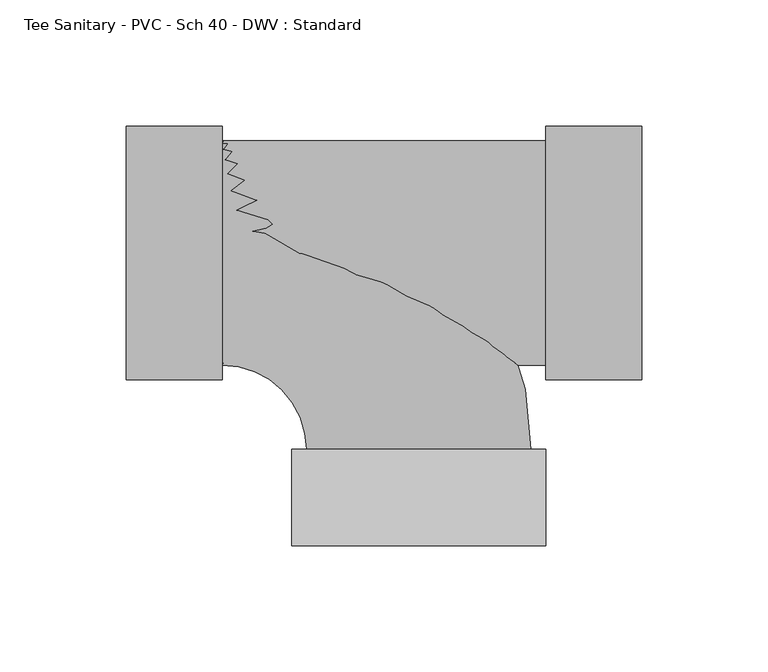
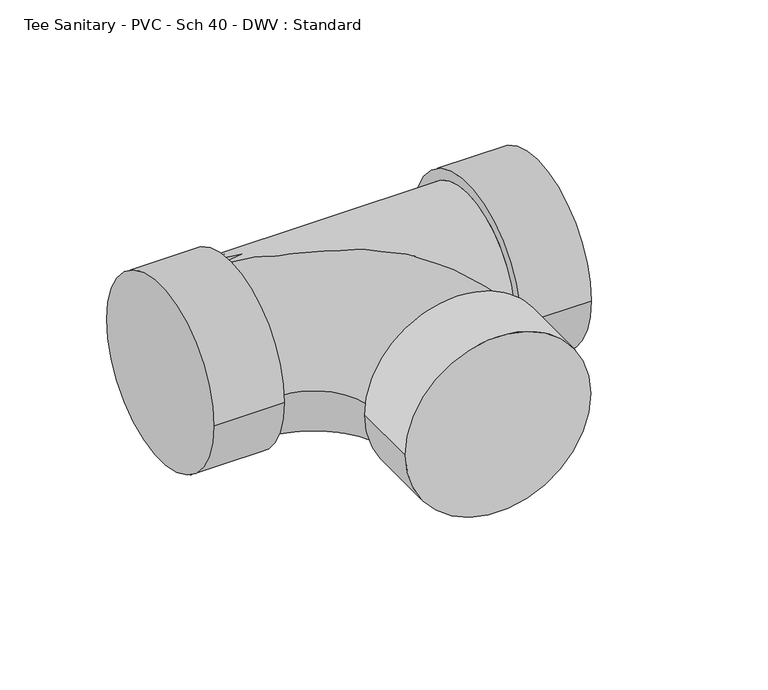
"""IFC4 building model written with IfcOpenShell, lengths in millimetres: pipe fitting geometry, Tee Sanitary - PVC - Sch 40 - DWV : Standard."""

import ifcopenshell
import ifcopenshell.guid

model = None  # the IFC model being written
_history = None  # IfcOwnerHistory: only IFC2X3 demands one
_inside = {}  # id of a spatial element -> (the spatial element, [elements in it])
_under = {}  # id of a project, library or spatial element -> (it, [spatial elements below it])
_declared = {}  # id of a project -> (the project, [libraries it declares])
_typed = {}  # id of a type object -> (the type object, [elements of that type])
_made_of = {}  # id of a material, layer set ... -> (it, [elements and type objects made of it])


def new_model(schema):
    """Start an empty IFC model of exactly this schema.

    Asked for "IFC4X3", IfcOpenShell would pick the latest addendum, in which some entities
    have other attributes; the version numbers below select the first issue.
    IFC2X3 requires an IfcOwnerHistory on every rooted entity: one is made here for all.
    """
    global model, _history
    if schema == "IFC4X3":
        model = ifcopenshell.file(schema_version=(4, 3, 0, 0))
    else:
        model = ifcopenshell.file(schema=schema)
    _inside.clear()
    _under.clear()
    _declared.clear()
    _typed.clear()
    _made_of.clear()
    _history = None
    if model.schema == "IFC2X3":
        org = make("IfcOrganization", Name="unknown")
        user = make(
            "IfcPersonAndOrganization",
            ThePerson=make("IfcPerson", FamilyName="unknown"),
            TheOrganization=org,
        )
        app = make(
            "IfcApplication",
            ApplicationDeveloper=org,
            Version="unknown",
            ApplicationFullName="unknown",
            ApplicationIdentifier="unknown",
        )
        _history = make(
            "IfcOwnerHistory",
            OwningUser=user,
            OwningApplication=app,
            ChangeAction="ADDED",
            CreationDate=0,
        )
    return model


def make(cls, **values):
    """One entity of the class cls with the attributes given. An attribute that is None is left unset."""
    return model.create_entity(
        cls, **{name: value for name, value in values.items() if value is not None}
    )


def rooted(cls, **values):
    """An entity with a GlobalId (a new one), such as an element, a storey or a relation."""
    return make(cls, GlobalId=ifcopenshell.guid.new(), OwnerHistory=_history, **values)


def si_unit(unit_type, name, prefix=None):
    """IfcSIUnit, for example si_unit("LENGTHUNIT", "METRE", prefix="MILLI")."""
    return make("IfcSIUnit", UnitType=unit_type, Prefix=prefix, Name=name)


def assignment(units):
    """IfcUnitAssignment: the units of a project."""
    return None if units is None else make("IfcUnitAssignment", Units=units)


def point(xyz):
    """IfcCartesianPoint."""
    return None if xyz is None else make("IfcCartesianPoint", Coordinates=xyz)


def direction(xyz):
    """IfcDirection."""
    return None if xyz is None else make("IfcDirection", DirectionRatios=xyz)


def frame(location, z_axis=None, x_axis=None):
    """IfcAxis2Placement3D, a coordinate frame: its origin and axes. An axis left out is left unset."""
    return make(
        "IfcAxis2Placement3D",
        Location=point(location),
        Axis=direction(z_axis),
        RefDirection=direction(x_axis),
    )


def origin():
    """The frame at (0, 0, 0) with its axes left unset."""
    return frame((0.0, 0.0, 0.0))


def place(relative_to, where):
    """IfcLocalPlacement: puts the frame where relative to a parent placement (None: the world)."""
    return make(
        "IfcLocalPlacement", PlacementRelTo=relative_to, RelativePlacement=where
    )


def context(
    kind, dimensions, precision=None, world=None, true_north=None, identifier=None
):
    """IfcGeometricRepresentationContext, for example the 3D "Model" context."""
    return make(
        "IfcGeometricRepresentationContext",
        ContextIdentifier=identifier,
        ContextType=kind,
        CoordinateSpaceDimension=dimensions,
        Precision=precision,
        WorldCoordinateSystem=world,
        TrueNorth=true_north,
    )


def project(units=None, contexts=None):
    """IfcProject with its units and contexts."""
    return rooted(
        "IfcProject",
        Name="project",
        RepresentationContexts=contexts,
        UnitsInContext=assignment(units),
    )


def spatial(cls, under=None, at=None, **own):
    """A site, building, storey or space (cls), placed at a placement, below another one or the project."""
    s = rooted(cls, ObjectPlacement=at, **own)
    if under is not None:
        _under.setdefault(under.id(), (under, []))[1].append(s)
    return s


def circle_curve(where, radius):
    """IfcCircle in the frame where."""
    return make("IfcCircle", Position=where, Radius=radius)


def ellipse_curve(where, semi_axis1, semi_axis2):
    """IfcEllipse in the frame where."""
    return make(
        "IfcEllipse", Position=where, SemiAxis1=semi_axis1, SemiAxis2=semi_axis2
    )


def trimmed(basis, trim1, trim2, sense, master):
    """IfcTrimmedCurve: the piece of a basis curve between two trims."""
    return make(
        "IfcTrimmedCurve",
        BasisCurve=basis,
        Trim1=trim1,
        Trim2=trim2,
        SenseAgreement=sense,
        MasterRepresentation=master,
    )


def shape(context_of_items, identifier, shape_type, items):
    """IfcShapeRepresentation: the items that make up one representation, for example the "Body"."""
    return make(
        "IfcShapeRepresentation",
        ContextOfItems=context_of_items,
        RepresentationIdentifier=identifier,
        RepresentationType=shape_type,
        Items=items,
    )


def source(mapping_origin, context_of_items, identifier, shape_type, items):
    """IfcRepresentationMap: a shape defined once, which mapped items show again and again."""
    return make(
        "IfcRepresentationMap",
        MappingOrigin=mapping_origin,
        MappedRepresentation=shape(context_of_items, identifier, shape_type, items),
    )


def transform(
    local_origin,
    x_axis=None,
    y_axis=None,
    z_axis=None,
    scale=None,
    scale2=None,
    scale3=None,
    uniform=True,
):
    """IfcCartesianTransformationOperator3D, or its non-uniform kind. x_axis, y_axis, z_axis: its Axis1, 2, 3."""
    if uniform:
        return make(
            "IfcCartesianTransformationOperator3D",
            Axis1=direction(x_axis),
            Axis2=direction(y_axis),
            LocalOrigin=point(local_origin),
            Scale=scale,
            Axis3=direction(z_axis),
        )
    return make(
        "IfcCartesianTransformationOperator3DnonUniform",
        Axis1=direction(x_axis),
        Axis2=direction(y_axis),
        LocalOrigin=point(local_origin),
        Scale=scale,
        Axis3=direction(z_axis),
        Scale2=scale2,
        Scale3=scale3,
    )


def mapped(mapping_source, mapping_target):
    """IfcMappedItem: shows the shape of a source again, moved by a transform."""
    return make(
        "IfcMappedItem", MappingSource=mapping_source, MappingTarget=mapping_target
    )


def made_of(thing, what):
    """Note that an element or type object is made of a material, layer set ...; save() writes the relation."""
    if what is not None:
        _made_of.setdefault(what.id(), (what, []))[1].append(thing)
    return thing


def element(
    cls,
    number,
    at=None,
    inside=None,
    cuts=None,
    type_object=None,
    material=None,
    context=None,
    identifier="Body",
    shape_type=None,
    held_by="IfcProductDefinitionShape",
    body=None,
    shapes=None,
    **own,
):
    """One element of the class cls, such as IfcWall. Its Tag is "e" and its number.

    at: its placement. inside: the storey or other place that contains it. cuts: it is an
    opening in that element (IfcRelVoidsElement). A single representation is given by context,
    identifier, shape_type and body (its items); several are given by shapes. held_by: the class
    of the entity that holds the representations. save() writes the other relations.
    """
    e = rooted(cls, Tag="e%d" % number, ObjectPlacement=at, **own)
    if body is not None:
        shapes = [shape(context, identifier, shape_type, body)]
    if shapes is not None:
        e.Representation = make(held_by, Representations=shapes)
    if inside is not None:
        _inside.setdefault(inside.id(), (inside, []))[1].append(e)
    if cuts is not None:
        rooted(
            "IfcRelVoidsElement", RelatingBuildingElement=cuts, RelatedOpeningElement=e
        )
    if type_object is not None:
        _typed.setdefault(type_object.id(), (type_object, []))[1].append(e)
    return made_of(e, material)


def aggregate(whole, parts):
    """IfcRelAggregates: a whole, such as a stair, and the parts it consists of."""
    return rooted("IfcRelAggregates", RelatingObject=whole, RelatedObjects=parts)


def save(model, path):
    """Write the relations noted so far, then the file.

    IfcRelAggregates (storeys below a building ...), IfcRelContainedInSpatialStructure (elements
    in a storey), IfcRelDefinesByType, IfcRelAssociatesMaterial and IfcRelDeclares: one each for
    every whole, place, type object, material and project.
    """
    for whole, parts in _under.values():
        aggregate(whole, parts)
    for where, things in _inside.values():
        rooted(
            "IfcRelContainedInSpatialStructure",
            RelatedElements=things,
            RelatingStructure=where,
        )
    for kind, things in _typed.values():
        rooted("IfcRelDefinesByType", RelatedObjects=things, RelatingType=kind)
    for what, things in _made_of.values():
        rooted("IfcRelAssociatesMaterial", RelatedObjects=things, RelatingMaterial=what)
    for by, libraries in _declared.values():
        rooted("IfcRelDeclares", RelatingContext=by, RelatedDefinitions=libraries)
    model.write(path)


def plane_surface(at):
    """IfcPlane: the flat surface through the origin of the frame at, square to its z axis."""
    return make("IfcPlane", Position=at)


def cylinder_surface(at, radius):
    """IfcCylindricalSurface: all points at the distance radius from the z axis of the frame at."""
    return make("IfcCylindricalSurface", Position=at, Radius=radius)


def revolved_surface(curve, axis_point, axis_direction):
    """IfcSurfaceOfRevolution: the curve turned about the line through axis_point along axis_direction."""
    return make(
        "IfcSurfaceOfRevolution",
        SweptCurve=make("IfcArbitraryOpenProfileDef", ProfileType="CURVE", Curve=curve),
        AxisPosition=make("IfcAxis1Placement", Location=point(axis_point), Axis=direction(axis_direction)),
    )


def advanced_brep(points, edges, surfaces, faces):
    """IfcAdvancedBrep: a solid bounded by faces that lie on surfaces and meet in shared edges.

    An edge is (start, end): straight between two places in points (the first is 0);
    or (start, end, curve); or (start, end, curve, False) where it runs against its curve.
    A face is (place in surfaces, loops), or (place, loops, False) where it looks against
    its surface's normal. A loop lists edges by number (the first is 1), with a minus sign
    where the edge is run from its end to its start. The first loop is the outer one.
    """
    corners = [point(p) for p in points]
    vertices = [make("IfcVertexPoint", VertexGeometry=c) for c in corners]
    made = []
    for start, end, *more in edges:
        made.append(
            make(
                "IfcEdgeCurve",
                EdgeStart=vertices[start],
                EdgeEnd=vertices[end],
                EdgeGeometry=more[0] if more else make("IfcPolyline", Points=[corners[start], corners[end]]),
                SameSense=more[1] if len(more) > 1 else True,
            )
        )
    hull = []
    for where, loops, *sense in faces:
        bounds = []
        for j, loop in enumerate(loops):
            ring = [make("IfcOrientedEdge", EdgeElement=made[abs(k) - 1], Orientation=k > 0) for k in loop]
            bounds.append(
                make(
                    "IfcFaceOuterBound" if j == 0 else "IfcFaceBound",
                    Bound=make("IfcEdgeLoop", EdgeList=ring),
                    Orientation=True,
                )
            )
        hull.append(make("IfcAdvancedFace", Bounds=bounds, FaceSurface=surfaces[where], SameSense=sense[0] if sense else True))
    return make("IfcAdvancedBrep", Outer=make("IfcClosedShell", CfsFaces=hull))


def tee_sanitary_pvc_sch_40_dwv_standard_5aefe654(model_context):
    return source(origin(), model_context, "Body", "AdvancedBrep", [
        advanced_brep(
        [(-77.8002, -44.45, 0.0), (-77.8002, 44.45, 0.0), (-44.41477, -77.8203175, 0.0), (44.4852208, -77.7800665, 0.0), (50.3190707, -115.877429, 0.0), (-50.214119, -115.9229472, 0.0), (50.3018202, -77.7774329, 0.0), (-50.2313695, -77.8229511, 0.0)],
        [
            (0, 1, circle_curve(frame((-77.8002, 0.0, 0.0), z_axis=(-1.0, 0.0, 0.0), x_axis=(0.0, 1.0, 0.0)), 44.45)),
            (1, 0, circle_curve(frame((-77.8002, 0.0, 0.0), z_axis=(-1.0, 0.0, 0.0), x_axis=(0.0, 1.0, 0.0)), 44.45)),
            (0, 2, circle_curve(frame((-77.8002, -77.8354334, 0.0), z_axis=(0.0, 0.0, -1.0), x_axis=(0.0, 1.0, 0.0)), 33.3854334)),
            (2, 3, circle_curve(frame((0.0352254, -77.800192, 0.0), z_axis=(-0.0004527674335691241, 0.9999998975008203, 0.0), x_axis=(0.9999998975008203, 0.0004527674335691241, 0.0)), 44.45)),
            (3, 1, circle_curve(frame((-77.8002, -77.8354334, 0.0), z_axis=(0.0, 0.0, 1.0), x_axis=(0.0, 1.0, 0.0)), 122.2854334)),
            (3, 2, circle_curve(frame((0.0352254, -77.800192, 0.0), z_axis=(-0.00045276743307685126, 0.9999998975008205, 0.0), x_axis=(0.9999998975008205, 0.00045276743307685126, 0.0)), 44.45)),
            (4, 5, circle_curve(frame((0.0524758, -115.9001881, 0.0), z_axis=(0.00045276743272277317, -0.9999998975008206, 0.0), x_axis=(-0.9999998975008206, -0.00045276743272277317, 0.0)), 50.2666)),
            (5, 4, circle_curve(frame((0.0524758, -115.9001881, 0.0), z_axis=(0.00045276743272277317, -0.9999998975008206, 0.0), x_axis=(-0.9999998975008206, -0.00045276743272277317, 0.0)), 50.2666)),
            (6, 7, circle_curve(frame((0.0352254, -77.800192, 0.0), z_axis=(-0.00045276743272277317, 0.9999998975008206, 0.0), x_axis=(-0.9999998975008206, -0.00045276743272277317, 0.0)), 50.2666)),
            (7, 6, circle_curve(frame((0.0352254, -77.800192, 0.0), z_axis=(-0.00045276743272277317, 0.9999998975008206, 0.0), x_axis=(-0.9999998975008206, -0.00045276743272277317, 0.0)), 50.2666)),
            (4, 6),
            (7, 5),
        ],
        [
            plane_surface(frame((-77.8002, 0.0, 0.0), z_axis=(-1.0, 0.0, 0.0), x_axis=(0.0, 0.0, 1.0))),
            revolved_surface(trimmed(ellipse_curve(frame((-77.8002, 0.0, 0.0), z_axis=(-1.0, 0.0, 0.0), x_axis=(0.0, 1.0, 0.0)), 44.45, 44.45), [point((-77.8002, -44.45, 0.0))], [point((-77.8002, 44.45, 0.0))], True, "CARTESIAN"), (-77.8002, -77.8354334, 0.0), (0.0, 0.0, -1.0)),
            revolved_surface(trimmed(ellipse_curve(frame((-77.8002, 0.0, 0.0), z_axis=(-1.0, 0.0, 0.0), x_axis=(0.0, 1.0, 0.0)), 44.45, 44.45), [point((-77.8002, 44.45, 0.0))], [point((-77.8002, -44.45, 0.0))], True, "CARTESIAN"), (-77.8002, -77.8354334, 0.0), (0.0, 0.0, -1.0)),
            plane_surface(frame((0.0524758, -115.9001881, 0.0), z_axis=(0.0004527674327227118, -0.9999998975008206, 0.0), x_axis=(0.0, 0.0, 1.0))),
            plane_surface(frame((0.0352254, -77.800192, 0.0), z_axis=(-0.00045276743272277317, 0.9999998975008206, 0.0), x_axis=(0.0, 0.0, 1.0))),
            cylinder_surface(frame((0.0524758, -115.9001881, 0.0), z_axis=(0.00045276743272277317, -0.9999998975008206, 0.0), x_axis=(-0.9999998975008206, -0.00045276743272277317, 0.0)), 50.2666),
        ],
        [
            (0, [[1, 2]]),
            (1, [[-1, 3, 4, 5]]),
            (2, [[-2, -5, 6, -3]]),
            (3, [[7, 8]]),
            (4, [[9, 10], [-4, -6]]),
            (5, [[-7, 11, -10, 12]]),
            (5, [[-8, -12, -9, -11]]),
        ],
    ),
        advanced_brep(
        [(-77.8002, -44.45, 0.0), (50.3018202, -44.45, 0.0), (50.3018202, 44.45, 0.0), (-77.8002, 44.45, 0.0), (50.3018202, -50.2666, 0.0), (50.3018202, 50.2666, 0.0), (88.4018202, -50.2666, 0.0), (88.4018202, 50.2666, 0.0), (-115.9002, -50.2666, 0.0), (-115.9002, 50.2666, 0.0), (-77.8002, -50.2666, 0.0), (-77.8002, 50.2666, 0.0)],
        [
            (0, 1),
            (1, 2, circle_curve(frame((50.3018202, 0.0, 0.0), z_axis=(-1.0, 0.0, 0.0), x_axis=(0.0, 1.0, 0.0)), 44.45)),
            (2, 3),
            (3, 0, circle_curve(frame((-77.8002, 0.0, 0.0), z_axis=(1.0, 0.0, 0.0), x_axis=(0.0, 1.0, 0.0)), 44.45)),
            (0, 3, circle_curve(frame((-77.8002, 0.0, 0.0), z_axis=(1.0, 0.0, 0.0), x_axis=(0.0, 1.0, 0.0)), 44.45)),
            (2, 1, circle_curve(frame((50.3018202, 0.0, 0.0), z_axis=(-1.0, 0.0, 0.0), x_axis=(0.0, 1.0, 0.0)), 44.45)),
            (4, 5, circle_curve(frame((50.3018202, 0.0, 0.0), z_axis=(-1.0, 0.0, 0.0), x_axis=(0.0, 1.0, 0.0)), 50.2666)),
            (5, 4, circle_curve(frame((50.3018202, 0.0, 0.0), z_axis=(-1.0, 0.0, 0.0), x_axis=(0.0, 1.0, 0.0)), 50.2666)),
            (6, 7, circle_curve(frame((88.4018202, 0.0, 0.0), z_axis=(1.0, 0.0, 0.0), x_axis=(0.0, 1.0, 0.0)), 50.2666)),
            (7, 6, circle_curve(frame((88.4018202, 0.0, 0.0), z_axis=(1.0, 0.0, 0.0), x_axis=(0.0, 1.0, 0.0)), 50.2666)),
            (4, 6),
            (7, 5),
            (8, 9, circle_curve(frame((-115.9002, 0.0, 0.0), z_axis=(-1.0, 0.0, 0.0), x_axis=(0.0, 1.0, 0.0)), 50.2666)),
            (9, 8, circle_curve(frame((-115.9002, 0.0, 0.0), z_axis=(-1.0, 0.0, 0.0), x_axis=(0.0, 1.0, 0.0)), 50.2666)),
            (10, 11, circle_curve(frame((-77.8002, 0.0, 0.0), z_axis=(1.0, 0.0, 0.0), x_axis=(0.0, 1.0, 0.0)), 50.2666)),
            (11, 10, circle_curve(frame((-77.8002, 0.0, 0.0), z_axis=(1.0, 0.0, 0.0), x_axis=(0.0, 1.0, 0.0)), 50.2666)),
            (8, 10),
            (11, 9),
        ],
        [
            cylinder_surface(frame((-77.8002, 0.0, 0.0), z_axis=(-1.0, 0.0, 0.0), x_axis=(0.0, 1.0, 0.0)), 44.45),
            plane_surface(frame((50.3018202, 0.0, 0.0), z_axis=(-1.0, 0.0, 0.0), x_axis=(0.0, 0.0, 1.0))),
            plane_surface(frame((88.4018202, 0.0, 0.0), z_axis=(1.0, 0.0, 0.0), x_axis=(0.0, 0.0, 1.0))),
            cylinder_surface(frame((50.3018202, 0.0, 0.0), z_axis=(-1.0, 0.0, 0.0), x_axis=(0.0, 1.0, 0.0)), 50.2666),
            plane_surface(frame((-115.9002, 0.0, 0.0), z_axis=(-1.0, 0.0, 0.0), x_axis=(0.0, 0.0, 1.0))),
            plane_surface(frame((-77.8002, 0.0, 0.0), z_axis=(1.0, 0.0, 0.0), x_axis=(0.0, 0.0, 1.0))),
            cylinder_surface(frame((-115.9002, 0.0, 0.0), z_axis=(-1.0, 0.0, 0.0), x_axis=(0.0, 1.0, 0.0)), 50.2666),
        ],
        [
            (0, [[1, 2, 3, 4]]),
            (0, [[-1, 5, -3, 6]]),
            (1, [[7, 8], [-2, -6]]),
            (2, [[9, 10]]),
            (3, [[-7, 11, -10, 12]]),
            (3, [[-8, -12, -9, -11]]),
            (4, [[13, 14]]),
            (5, [[15, 16], [-4, -5]]),
            (6, [[-13, 17, -16, 18]]),
            (6, [[-14, -18, -15, -17]]),
        ],
    ),
    ])


if __name__ == "__main__":
    model = new_model("IFC4")
    model_context = context("Model", 3, world=origin())
    ifc_project = project(units=[si_unit("LENGTHUNIT", "METRE", prefix="MILLI")], contexts=[model_context])
    site = spatial("IfcSite", under=ifc_project)
    building = spatial("IfcBuilding", under=site)
    placement = place(None, origin())
    tee_sanitary_pvc_sch_40_dwv_standard_shape = tee_sanitary_pvc_sch_40_dwv_standard_5aefe654(model_context)
    element("IfcPipeFitting", 1, ObjectType="Tee Sanitary - PVC - Sch 40 - DWV : Standard", at=placement, inside=building, context=model_context, shape_type="MappedRepresentation", body=[
        mapped(tee_sanitary_pvc_sch_40_dwv_standard_shape, transform((0.0, 0.0, 0.0), x_axis=(1.0, 0.0, 0.0), y_axis=(0.0, 1.0, 0.0), z_axis=(0.0, 0.0, 1.0))),
    ])
    save(model, "model.ifc")
